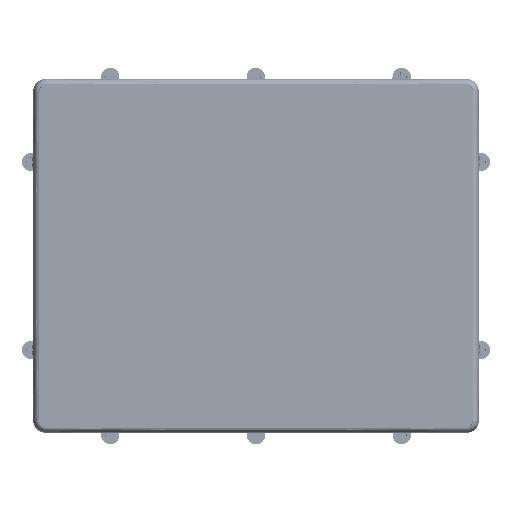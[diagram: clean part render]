
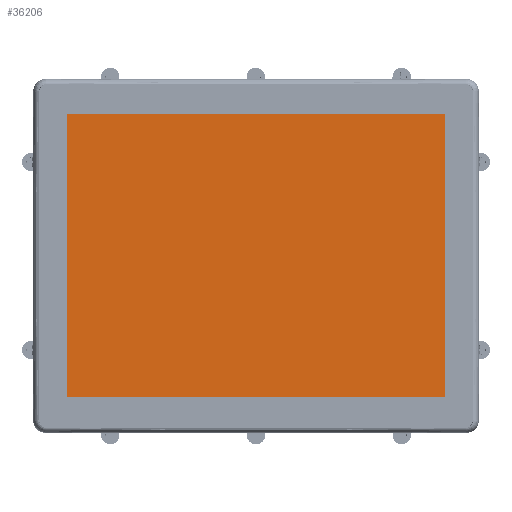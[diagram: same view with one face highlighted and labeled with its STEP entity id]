
A CAD part, top view. The second image highlights one B-rep face of the part: STEP entity #36206.
In plain terms, the highlighted planar face has unit normal (0, 0, 1).
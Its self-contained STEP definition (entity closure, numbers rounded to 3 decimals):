
#11906=DIRECTION('',(0.,-1.,0.));
#11907=VECTOR('',#11906,228.9);
#11908=CARTESIAN_POINT('',(-152.5,114.45,5.92));
#11909=LINE('',#11908,#11907);
#11922=DIRECTION('',(1.,0.,0.));
#11923=VECTOR('',#11922,305.);
#11924=CARTESIAN_POINT('',(-152.5,-114.45,5.92));
#11925=LINE('',#11924,#11923);
#11934=DIRECTION('',(0.,1.,0.));
#11935=VECTOR('',#11934,228.9);
#11936=CARTESIAN_POINT('',(152.5,-114.45,5.92));
#11937=LINE('',#11936,#11935);
#11946=DIRECTION('',(-1.,0.,0.));
#11947=VECTOR('',#11946,305.);
#11948=CARTESIAN_POINT('',(152.5,114.45,5.92));
#11949=LINE('',#11948,#11947);
#21336=CARTESIAN_POINT('',(152.5,114.45,5.92));
#21337=CARTESIAN_POINT('',(-152.5,114.45,5.92));
#21338=VERTEX_POINT('',#21336);
#21339=VERTEX_POINT('',#21337);
#21340=CARTESIAN_POINT('',(152.5,-114.45,5.92));
#21341=VERTEX_POINT('',#21340);
#21342=CARTESIAN_POINT('',(-152.5,-114.45,5.92));
#21343=VERTEX_POINT('',#21342);
#36195=CARTESIAN_POINT('',(0.,0.,5.92));
#36196=DIRECTION('',(0.,0.,1.));
#36197=DIRECTION('',(1.,0.,0.));
#36198=AXIS2_PLACEMENT_3D('',#36195,#36196,#36197);
#36199=PLANE('',#36198);
#36200=ORIENTED_EDGE('',*,*,#36183,.F.);
#36201=ORIENTED_EDGE('',*,*,#36163,.F.);
#36202=ORIENTED_EDGE('',*,*,#36142,.F.);
#36203=ORIENTED_EDGE('',*,*,#36121,.F.);
#36204=EDGE_LOOP('',(#36200,#36201,#36202,#36203));
#36205=FACE_OUTER_BOUND('',#36204,.F.);
#36206=ADVANCED_FACE('',(#36205),#36199,.T.);
#36121=EDGE_CURVE('',#21339,#21343,#11909,.T.);
#36142=EDGE_CURVE('',#21343,#21341,#11925,.T.);
#36163=EDGE_CURVE('',#21341,#21338,#11937,.T.);
#36183=EDGE_CURVE('',#21338,#21339,#11949,.T.);
